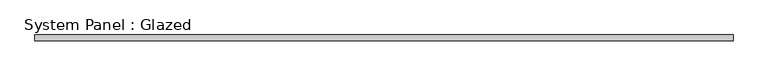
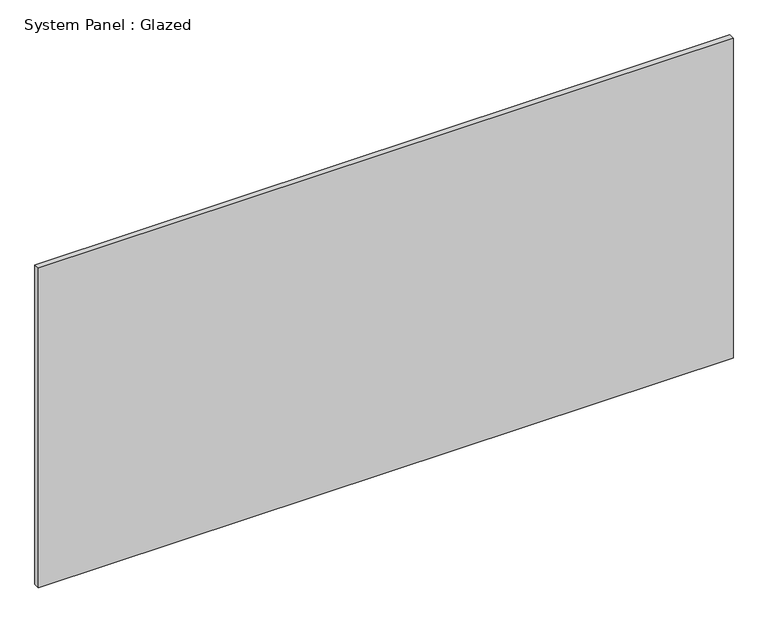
"""IFC4 building model written with IfcOpenShell, lengths in millimetres: plate geometry, System Panel : Glazed."""

from ifc_helpers import new_model, si_unit, origin, origin_with_axes, place, context, project, spatial, polyline, outline, extrude, source, transform, mapped, element, save


def system_panel_glazed_855c2b63(model_context):
    return source(origin(), model_context, "Body", "SweptSolid", [
        extrude(outline(polyline([(595.7100175, -5.0), (-595.7100175, -5.0), (-595.7100175, 5.0), (595.7100175, 5.0), (595.7100175, -5.0)])), origin_with_axes(), (0.0, 0.0, 1.0), 580.0),
    ])


if __name__ == "__main__":
    model = new_model("IFC4")
    model_context = context("Model", 3, world=origin())
    ifc_project = project(units=[si_unit("LENGTHUNIT", "METRE", prefix="MILLI")], contexts=[model_context])
    site = spatial("IfcSite", under=ifc_project)
    building = spatial("IfcBuilding", under=site)
    placement = place(None, origin())
    system_panel_glazed_shape = system_panel_glazed_855c2b63(model_context)
    element("IfcPlate", 1, ObjectType="System Panel : Glazed", at=placement, inside=building, context=model_context, shape_type="MappedRepresentation", body=[
        mapped(system_panel_glazed_shape, transform((0.0, 0.0, 0.0), x_axis=(1.0, 0.0, 0.0), y_axis=(0.0, 1.0, 0.0), z_axis=(0.0, 0.0, 1.0))),
    ])
    save(model, "model.ifc")
